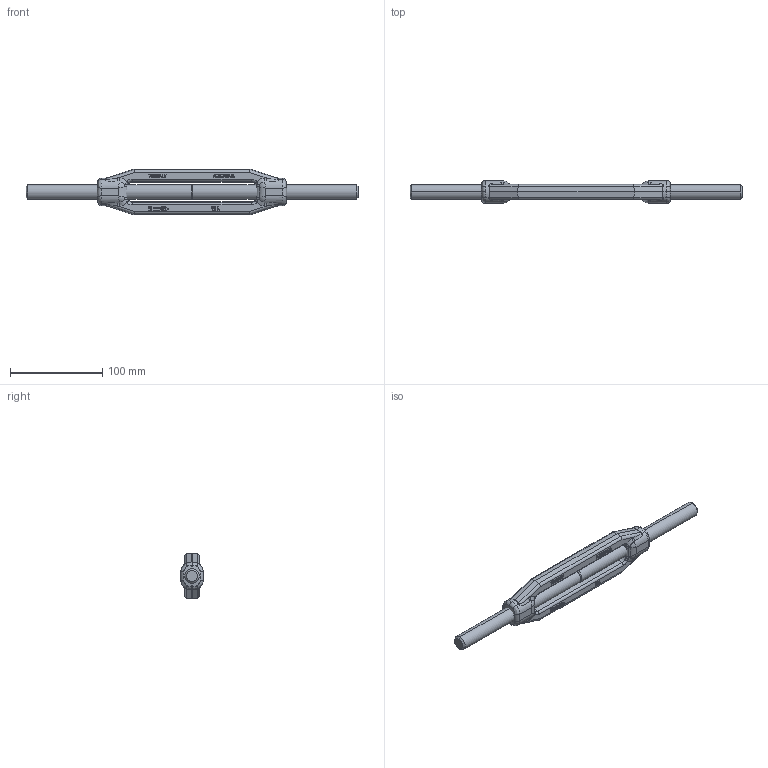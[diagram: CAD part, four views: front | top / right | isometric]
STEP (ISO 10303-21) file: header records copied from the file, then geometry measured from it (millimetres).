
FILE_DESCRIPTION (( 'STEP AP203' ), '1' );
FILE_NAME ('TBSS16.STEP', '2010-01-11T22:23:00', ( ' ' ), ( ' ' ), 'SwSTEP 2.0', 'SolidWorks 2003240', '' );
FILE_SCHEMA (( 'CONFIG_CONTROL_DESIGN' ));
Products named in the file (4): STUBMRH16; TBSS16; STUBMLH16; TBFB16
Assembly tree (3 placements, depth 2):
  TBSS16
    STUBMRH16
    STUBMLH16
    TBFB16
Bounding box: 360 x 24.38 x 49.77 mm (x, y, z)
Volume: 163880.3 mm3; surface area: 54638.2 mm2
Topology: 4 solids, 4 shells, 583 faces, 1499 edges, 946 vertices
Faces by surface type: plane 296, bspline 163, cylinder 64, torus 28, cone 20, sphere 12
Entity records: 58884 total; most frequent: CARTESIAN_POINT 45570, ORIENTED_EDGE 2982, DIRECTION 2145, EDGE_CURVE 1491, VERTEX_POINT 946, VECTOR 869, LINE 869, AXIS2_PLACEMENT_3D 638
